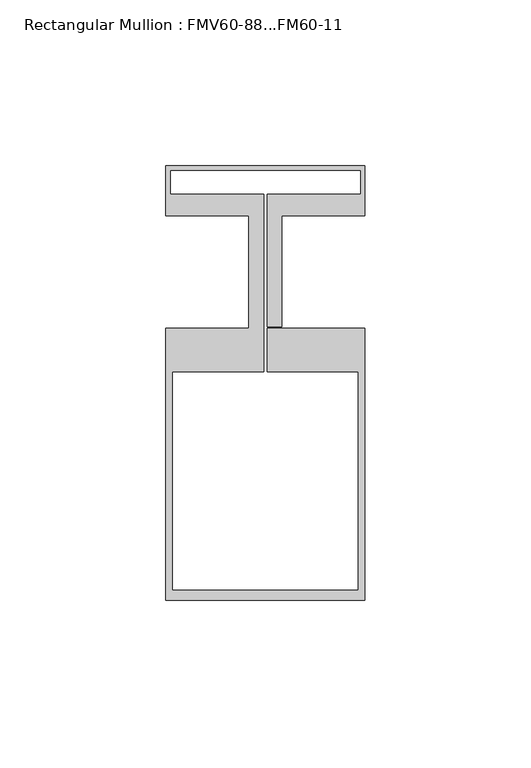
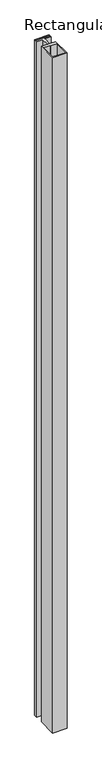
"""IFC4 building model written with IfcOpenShell, lengths in millimetres: member geometry, Rectangular Mullion : FMV60-88...FM60-11."""

from ifc_helpers import new_model, si_unit, frame, origin, place, context, project, spatial, polyline, outline, extrude, source, transform, mapped, element, save


def rectangular_mullion_fmv60_88_fm60_11_a70bedf8(model_context):
    return source(origin(), model_context, "Body", "SweptSolid", [
        extrude(outline(polyline([(0.5, -16.5), (0.5, 23.4439081), (28.7000412, 23.4439081), (28.7000412, 30.7038439), (-28.7000412, 30.7038439), (-28.7000412, 23.4439081), (-0.5, 23.4439081), (-0.5, -29.9945799), (-28.0, -29.9945799), (-28.0, -95.9990577), (28.0, -95.9990577), (28.0, -29.9945799), (0.5, -29.9945799), (0.5, -17.0), (30.0, -17.0), (30.0, -98.9990577), (-30.0, -98.9990577), (-30.0, -17.0), (-4.9995097, -17.0), (-4.9995097, 17.0), (-30.0, 17.0), (-30.0, 32.0038439), (30.0, 32.0038439), (30.0, 17.0), (5.0004903, 17.0), (5.0004903, -16.5), (0.5, -16.5)])), frame((0.0, 0.0, -3000.0), z_axis=(0.0, 0.0, 1.0), x_axis=(1.0, 0.0, 0.0)), (0.0, 0.0, 1.0), 3000.0),
    ])


if __name__ == "__main__":
    model = new_model("IFC4")
    model_context = context("Model", 3, world=origin())
    ifc_project = project(units=[si_unit("LENGTHUNIT", "METRE", prefix="MILLI")], contexts=[model_context])
    site = spatial("IfcSite", under=ifc_project)
    building = spatial("IfcBuilding", under=site)
    placement = place(None, origin())
    rectangular_mullion_fmv60_88_fm60_11_shape = rectangular_mullion_fmv60_88_fm60_11_a70bedf8(model_context)
    element("IfcMember", 1, ObjectType="Rectangular Mullion : FMV60-88...FM60-11", at=placement, inside=building, context=model_context, shape_type="MappedRepresentation", body=[
        mapped(rectangular_mullion_fmv60_88_fm60_11_shape, transform((0.0, 0.0, 0.0), x_axis=(1.0, 0.0, 0.0), y_axis=(0.0, 1.0, 0.0), z_axis=(0.0, 0.0, 1.0))),
    ])
    save(model, "model.ifc")
